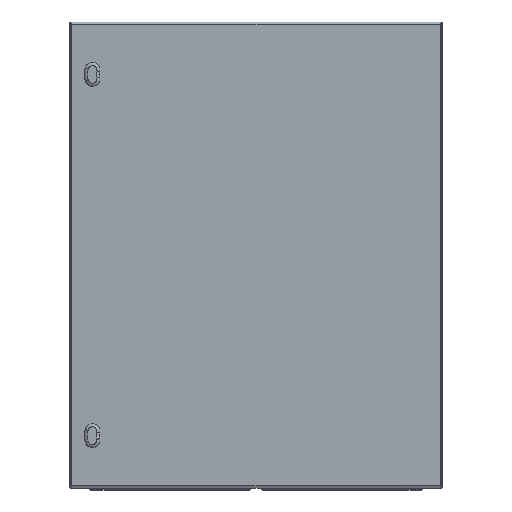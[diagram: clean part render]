
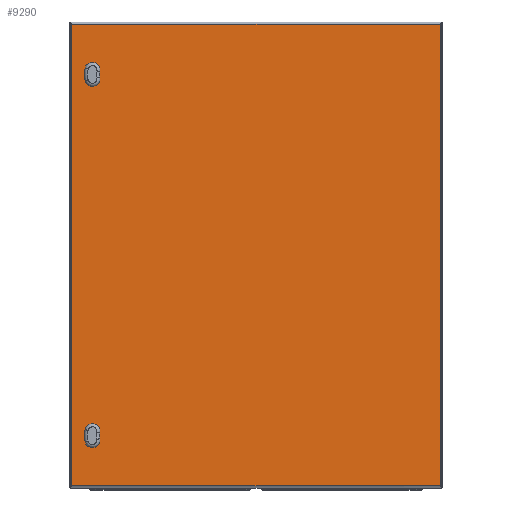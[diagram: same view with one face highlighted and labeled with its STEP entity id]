
A CAD part, front view. The second image highlights one B-rep face of the part: STEP entity #9290.
In plain terms, the highlighted planar face has unit normal (0, -1, 0).
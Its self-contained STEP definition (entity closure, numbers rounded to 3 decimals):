
#628=LINE('',#14964,#1148);
#629=LINE('',#14967,#1149);
#630=LINE('',#14969,#1150);
#631=LINE('',#14971,#1151);
#1148=VECTOR('',#11939,1000.);
#1149=VECTOR('',#11940,1000.);
#1150=VECTOR('',#11941,1000.);
#1151=VECTOR('',#11942,1000.);
#2150=ORIENTED_EDGE('',*,*,#4250,.F.);
#2151=ORIENTED_EDGE('',*,*,#4251,.T.);
#2152=ORIENTED_EDGE('',*,*,#4252,.T.);
#2153=ORIENTED_EDGE('',*,*,#4253,.T.);
#2154=ORIENTED_EDGE('',*,*,#4254,.F.);
#2155=ORIENTED_EDGE('',*,*,#4255,.T.);
#2156=ORIENTED_EDGE('',*,*,#4256,.T.);
#2157=ORIENTED_EDGE('',*,*,#4257,.T.);
#2158=ORIENTED_EDGE('',*,*,#4258,.F.);
#2159=ORIENTED_EDGE('',*,*,#4259,.F.);
#2160=ORIENTED_EDGE('',*,*,#4260,.T.);
#2161=ORIENTED_EDGE('',*,*,#4261,.T.);
#4250=EDGE_CURVE('',#5368,#5369,#6146,.T.);
#4251=EDGE_CURVE('',#5368,#5370,#6147,.T.);
#4252=EDGE_CURVE('',#5370,#5371,#6148,.T.);
#4253=EDGE_CURVE('',#5371,#5369,#6149,.T.);
#4254=EDGE_CURVE('',#5372,#5373,#6150,.T.);
#4255=EDGE_CURVE('',#5372,#5374,#6151,.T.);
#4256=EDGE_CURVE('',#5374,#5375,#6152,.T.);
#4257=EDGE_CURVE('',#5375,#5373,#6153,.T.);
#4258=EDGE_CURVE('',#5376,#5377,#628,.F.);
#4259=EDGE_CURVE('',#5378,#5376,#629,.T.);
#4260=EDGE_CURVE('',#5378,#5379,#630,.F.);
#4261=EDGE_CURVE('',#5379,#5377,#631,.T.);
#5368=VERTEX_POINT('',#14949);
#5369=VERTEX_POINT('',#14950);
#5370=VERTEX_POINT('',#14952);
#5371=VERTEX_POINT('',#14954);
#5372=VERTEX_POINT('',#14957);
#5373=VERTEX_POINT('',#14958);
#5374=VERTEX_POINT('',#14960);
#5375=VERTEX_POINT('',#14962);
#5376=VERTEX_POINT('',#14965);
#5377=VERTEX_POINT('',#14966);
#5378=VERTEX_POINT('',#14968);
#5379=VERTEX_POINT('',#14970);
#6146=CIRCLE('',#10124,34.3);
#6147=CIRCLE('',#10125,16.2);
#6148=CIRCLE('',#10126,60.7);
#6149=CIRCLE('',#10127,16.2);
#6150=CIRCLE('',#10128,34.3);
#6151=CIRCLE('',#10129,16.2);
#6152=CIRCLE('',#10130,60.7);
#6153=CIRCLE('',#10131,16.2);
#6911=EDGE_LOOP('',(#2150,#2151,#2152,#2153));
#6912=EDGE_LOOP('',(#2154,#2155,#2156,#2157));
#6913=EDGE_LOOP('',(#2158,#2159,#2160,#2161));
#8047=FACE_BOUND('',#6911,.T.);
#8048=FACE_BOUND('',#6912,.T.);
#8049=FACE_BOUND('',#6913,.T.);
#8968=PLANE('',#10123);
#9290=ADVANCED_FACE('',(#8047,#8048,#8049),#8968,.F.);
#10123=AXIS2_PLACEMENT_3D('',#14947,#11921,#11922);
#10124=AXIS2_PLACEMENT_3D('',#14948,#11923,#11924);
#10125=AXIS2_PLACEMENT_3D('',#14951,#11925,#11926);
#10126=AXIS2_PLACEMENT_3D('',#14953,#11927,#11928);
#10127=AXIS2_PLACEMENT_3D('',#14955,#11929,#11930);
#10128=AXIS2_PLACEMENT_3D('',#14956,#11931,#11932);
#10129=AXIS2_PLACEMENT_3D('',#14959,#11933,#11934);
#10130=AXIS2_PLACEMENT_3D('',#14961,#11935,#11936);
#10131=AXIS2_PLACEMENT_3D('',#14963,#11937,#11938);
#11921=DIRECTION('',(0.,1.,0.));
#11922=DIRECTION('',(0.,0.,1.));
#11923=DIRECTION('',(0.,1.,0.));
#11924=DIRECTION('',(1.,0.,0.));
#11925=DIRECTION('',(0.,1.,0.));
#11926=DIRECTION('',(1.,0.,0.));
#11927=DIRECTION('',(0.,1.,0.));
#11928=DIRECTION('',(1.,0.,0.));
#11929=DIRECTION('',(0.,1.,0.));
#11930=DIRECTION('',(1.,0.,0.));
#11931=DIRECTION('',(0.,1.,0.));
#11932=DIRECTION('',(1.,0.,0.));
#11933=DIRECTION('',(0.,1.,0.));
#11934=DIRECTION('',(1.,0.,0.));
#11935=DIRECTION('',(0.,1.,0.));
#11936=DIRECTION('',(1.,0.,0.));
#11937=DIRECTION('',(0.,1.,0.));
#11938=DIRECTION('',(1.,0.,0.));
#11939=DIRECTION('',(0.,0.,-1.));
#11940=DIRECTION('',(-1.,0.,0.));
#11941=DIRECTION('',(0.,0.,-1.));
#11942=DIRECTION('',(-1.,0.,0.));
#14947=CARTESIAN_POINT('',(0.,-17.,0.));
#14948=CARTESIAN_POINT('',(-301.402,-17.,-387.5));
#14949=CARTESIAN_POINT('',(-335.089,-17.,-393.952));
#14950=CARTESIAN_POINT('',(-335.089,-17.,-381.048));
#14951=CARTESIAN_POINT('',(-351.,-17.,-397.));
#14952=CARTESIAN_POINT('',(-366.827,-17.,-400.458));
#14953=CARTESIAN_POINT('',(-307.526,-17.,-387.5));
#14954=CARTESIAN_POINT('',(-366.827,-17.,-374.542));
#14955=CARTESIAN_POINT('',(-351.,-17.,-378.));
#14956=CARTESIAN_POINT('',(-301.402,-17.,387.5));
#14957=CARTESIAN_POINT('',(-335.089,-17.,381.048));
#14958=CARTESIAN_POINT('',(-335.089,-17.,393.952));
#14959=CARTESIAN_POINT('',(-351.,-17.,378.));
#14960=CARTESIAN_POINT('',(-366.827,-17.,374.542));
#14961=CARTESIAN_POINT('',(-307.526,-17.,387.5));
#14962=CARTESIAN_POINT('',(-366.827,-17.,400.458));
#14963=CARTESIAN_POINT('',(-351.,-17.,397.));
#14964=CARTESIAN_POINT('',(-395.,-17.,500.));
#14965=CARTESIAN_POINT('',(-395.,-17.,-495.));
#14966=CARTESIAN_POINT('',(-395.,-17.,495.));
#14967=CARTESIAN_POINT('',(400.,-17.,-495.));
#14968=CARTESIAN_POINT('',(395.,-17.,-495.));
#14969=CARTESIAN_POINT('',(395.,-17.,500.));
#14970=CARTESIAN_POINT('',(395.,-17.,495.));
#14971=CARTESIAN_POINT('',(400.,-17.,495.));
